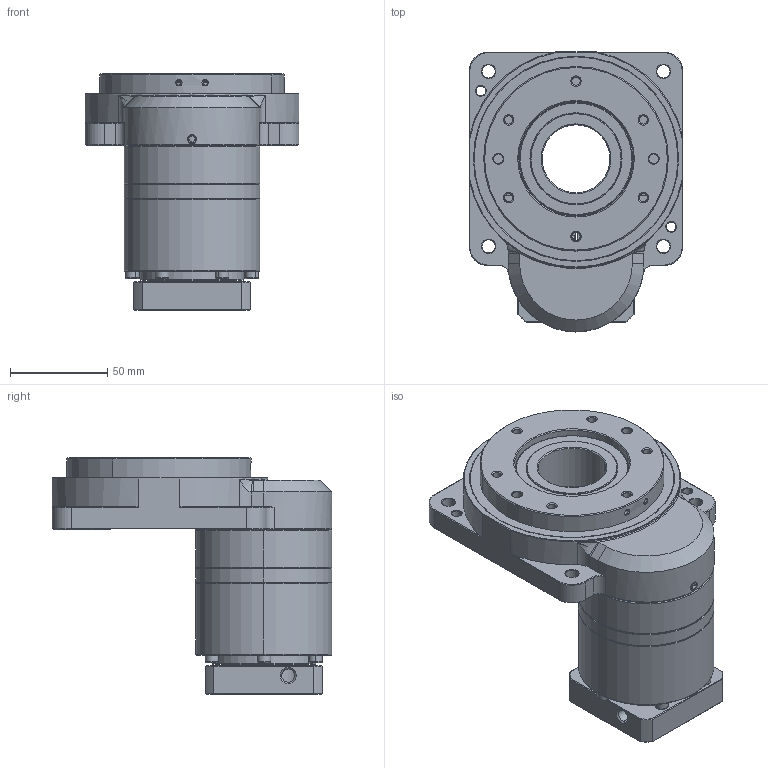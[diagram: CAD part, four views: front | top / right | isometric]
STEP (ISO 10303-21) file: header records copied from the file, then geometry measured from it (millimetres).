
FILE_DESCRIPTION (( 'STEP AP203' ), '1' );
FILE_NAME ('2.STEP', '2022-08-10T07:14:50', ( '' ), ( '' ), 'SwSTEP 2.0', 'SolidWorks 2020', '' );
FILE_SCHEMA (( 'CONFIG_CONTROL_DESIGN' ));
Length unit declared in the file: millimetre
Products named in the file (1): 2
Bounding box: 110 x 144 x 121.5 mm (x, y, z)
Surface area: 90789.1 mm2 (no closed solid volume)
Topology: 0 solids, 39 shells, 596 faces, 1709 edges, 1119 vertices
Faces by surface type: plane 201, cone 178, cylinder 144, torus 60, bspline 13
Entity records: 20346 total; most frequent: CARTESIAN_POINT 4662, DIRECTION 3444, ORIENTED_EDGE 2901, EDGE_CURVE 1691, AXIS2_PLACEMENT_3D 1339, VERTEX_POINT 1119, VECTOR 766, LINE 766
